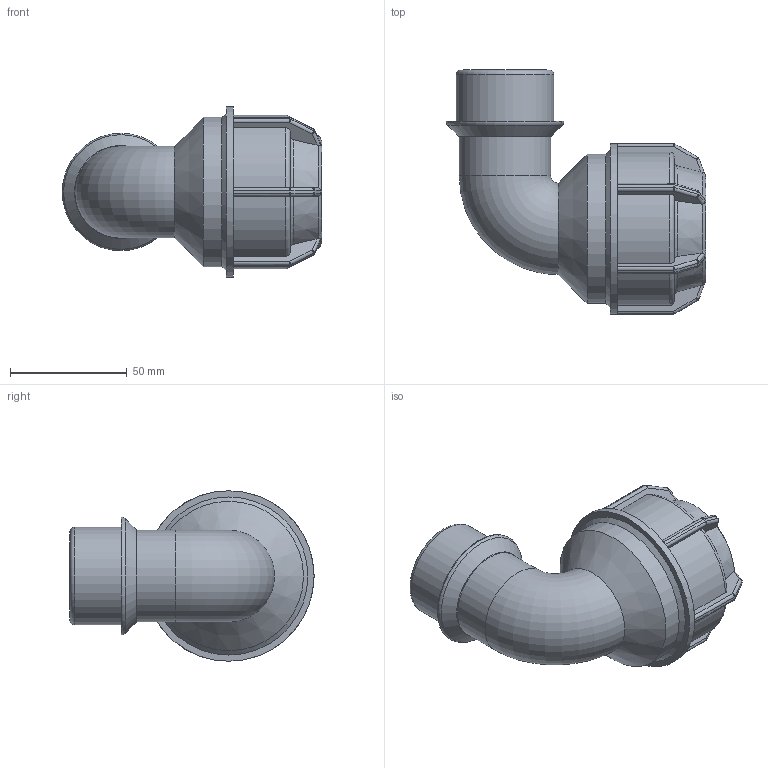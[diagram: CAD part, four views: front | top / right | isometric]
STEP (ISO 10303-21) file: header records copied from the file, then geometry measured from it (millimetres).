
FILE_DESCRIPTION(/* description */ ('PLASSON L.14 90° ELBOW MALE ADAPTOR (SILVER) 40-1.1/4"'),/* implementation_level */ '2;1');
FILE_NAME(/* name */ 'C:\Dropbox\KIMPROJECTS-Inventor\99-16-3568-Processing\Silver+MF ISRAEL\148500\148500040013.ipt.stp',/* time_stamp */ '2018-04-09T13:05:50+03:00',/* author */ ('KIM'),/* organization */ (''),/* preprocessor_version */ 'ST-DEVELOPER v15.6',/* originating_system */ 'Autodesk Inventor 2015',/* authorisation */ '');
FILE_SCHEMA (('AUTOMOTIVE_DESIGN { 1 0 10303 214 3 1 1 }'));
Length unit declared in the file: millimetre
Products named in the file (1): 148500040013
Bounding box: 111.15 x 104.5 x 73 mm (x, y, z)
Volume: 138853 mm3; surface area: 46063 mm2
Topology: 1 solids, 1 shells, 214 faces, 498 edges, 286 vertices
Faces by surface type: plane 98, cylinder 63, sphere 24, torus 19, cone 10
Full cylindrical faces by diameter (mm): 33.528 x2, 39.186 x1, 40 x2, 41.91 x1, 50.292 x1, 64 x1, 73 x1
Entity records: 6106 total; most frequent: CARTESIAN_POINT 1527, DIRECTION 966, ORIENTED_EDGE 924, EDGE_CURVE 462, AXIS2_PLACEMENT_3D 393, VERTEX_POINT 276, EDGE_LOOP 238, FACE_OUTER_BOUND 212
